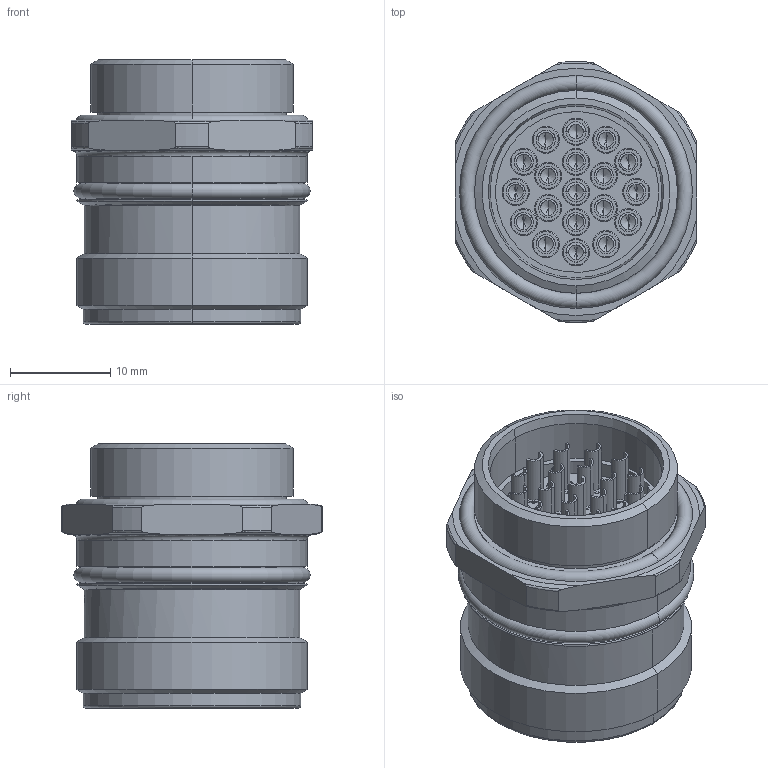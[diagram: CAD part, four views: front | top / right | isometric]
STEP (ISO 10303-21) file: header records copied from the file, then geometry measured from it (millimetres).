
FILE_DESCRIPTION((''),'2;1');
FILE_NAME('RC-19P1N126300','2011-04-26T',('jscheremet'),(''),'PRO/ENGINEER BY PARAMETRIC TECHNOLOGY CORPORATION, 2008490','PRO/ENGINEER BY PARAMETRIC TECHNOLOGY CORPORATION, 2008490','');
FILE_SCHEMA(('AUTOMOTIVE_DESIGN { 1 0 10303 214 1 1 1 1 }'));
Length unit declared in the file: millimetre
Products named in the file (1): RC-19P1N126300
Bounding box: 24 x 25.98 x 26.3 mm (x, y, z)
Volume: 6344.8 mm3; surface area: 5302.6 mm2
Topology: 1 solids, 1 shells, 1561 faces, 4125 edges, 2639 vertices
Faces by surface type: plane 1020, cylinder 261, cone 139, torus 65, bspline 38, sphere 38
Entity records: 50820 total; most frequent: CARTESIAN_POINT 12174, ORIENTED_EDGE 8098, DIRECTION 7813, EDGE_CURVE 4049, VECTOR 3051, LINE 3051, VERTEX_POINT 2639, AXIS2_PLACEMENT_3D 2381
